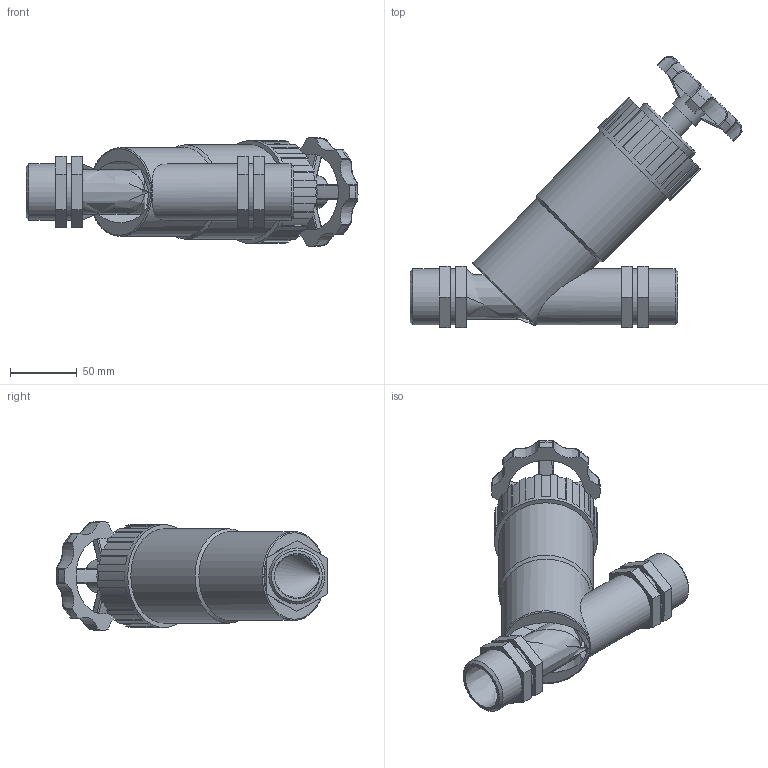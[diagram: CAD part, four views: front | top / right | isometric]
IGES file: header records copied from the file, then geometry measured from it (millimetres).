
Global section: file name: 03047155_030471550A_03049155.ipt; native system: Autodesk Inventor 2015; preprocessor: unknown; author: KIM; date: 20170619.121257; units: millimetre
Bounding box: 248.02 x 202.87 x 80.97 mm (x, y, z)
Volume: 651621.2 mm3; surface area: 102059.2 mm2
Topology: 2 solids, 3 shells, 222 faces, 595 edges, 386 vertices
Faces by surface type: plane 110, cylinder 57, bspline 26, revolution 22, cone 7
Full cylindrical faces by diameter (mm): 19.44 x1, 24.3 x1, 41.91 x6, 53.46 x1, 66.42 x1, 70.47 x1, 76.95 x1
